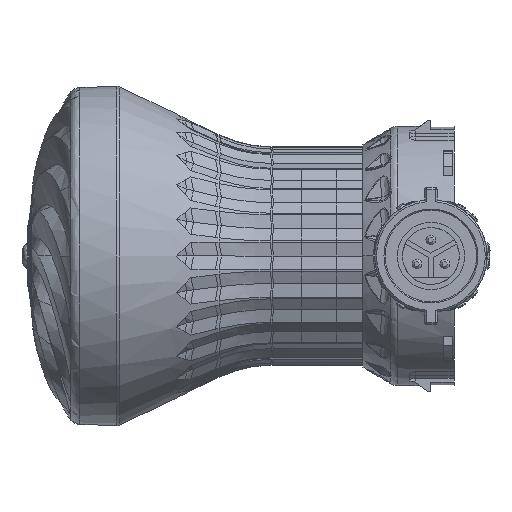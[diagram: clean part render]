
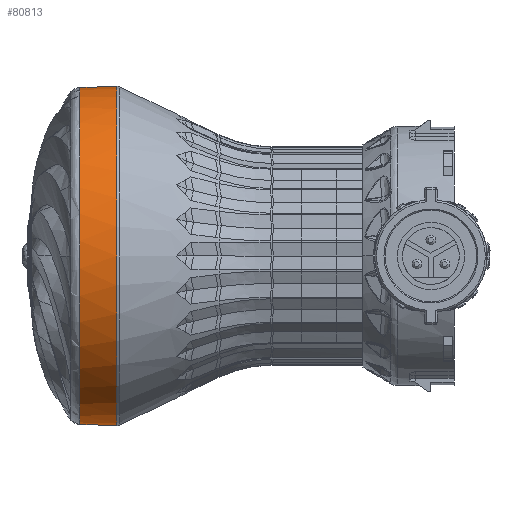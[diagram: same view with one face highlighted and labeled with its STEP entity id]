
A CAD part, left-side view. The second image highlights one B-rep face of the part: STEP entity #80813.
In plain terms, the highlighted conical face has half-angle 2 degrees and reference radius 27.345 mm.
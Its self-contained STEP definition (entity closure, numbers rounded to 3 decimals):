
#14054 = DIRECTION ( 'NONE',  ( 0.623, 0., 0.782 ) ) ;
#14725 = DIRECTION ( 'NONE',  ( 0., -1., 0. ) ) ;
#17402 = CIRCLE ( 'NONE', #56401, 27.457 ) ;
#19035 = DIRECTION ( 'NONE',  ( 0., 1., 0. ) ) ;
#20368 = EDGE_LOOP ( 'NONE', ( #67349 ) ) ;
#25278 = EDGE_CURVE ( 'NONE', #81121, #81121, #39051, .T. ) ;
#28972 = CARTESIAN_POINT ( 'NONE',  ( -16.99, 60.554, -21.305 ) ) ;
#33589 = CARTESIAN_POINT ( 'NONE',  ( 0., 60.554, 0. ) ) ;
#39051 = CIRCLE ( 'NONE', #56384, 27.249 ) ;
#44421 = DIRECTION ( 'NONE',  ( 0., -1., 0. ) ) ;
#44637 = CARTESIAN_POINT ( 'NONE',  ( 0., 57.829, 0. ) ) ;
#46703 = ORIENTED_EDGE ( 'NONE', *, *, #25278, .T. ) ;
#54832 = FACE_BOUND ( 'NONE', #96074, .T. ) ;
#56384 = AXIS2_PLACEMENT_3D ( 'NONE', #33589, #44421, #126932 ) ;
#56401 = AXIS2_PLACEMENT_3D ( 'NONE', #111779, #19035, #60442 ) ;
#57543 = AXIS2_PLACEMENT_3D ( 'NONE', #44637, #14725, #14054 ) ;
#60442 = DIRECTION ( 'NONE',  ( 0., 0., 1. ) ) ;
#64975 = FACE_OUTER_BOUND ( 'NONE', #20368, .T. ) ;
#67349 = ORIENTED_EDGE ( 'NONE', *, *, #119508, .T. ) ;
#80813 = ADVANCED_FACE ( 'NONE', ( #64975, #54832 ), #107074, .T. ) ;
#81121 = VERTEX_POINT ( 'NONE', #28972 ) ;
#84463 = CARTESIAN_POINT ( 'NONE',  ( 0., 54.6, 27.457 ) ) ;
#96074 = EDGE_LOOP ( 'NONE', ( #46703 ) ) ;
#107074 = CONICAL_SURFACE ( 'NONE', #57543, 27.345, 0.035 ) ;
#111779 = CARTESIAN_POINT ( 'NONE',  ( 0., 54.6, 0. ) ) ;
#119508 = EDGE_CURVE ( 'NONE', #127041, #127041, #17402, .T. ) ;
#126932 = DIRECTION ( 'NONE',  ( -0.623, 0., -0.782 ) ) ;
#127041 = VERTEX_POINT ( 'NONE', #84463 ) ;
